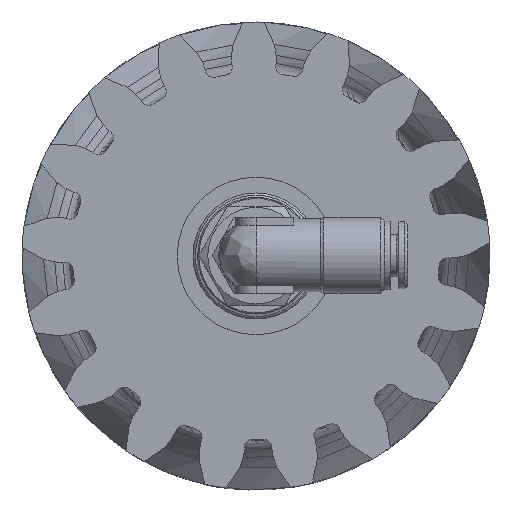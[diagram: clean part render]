
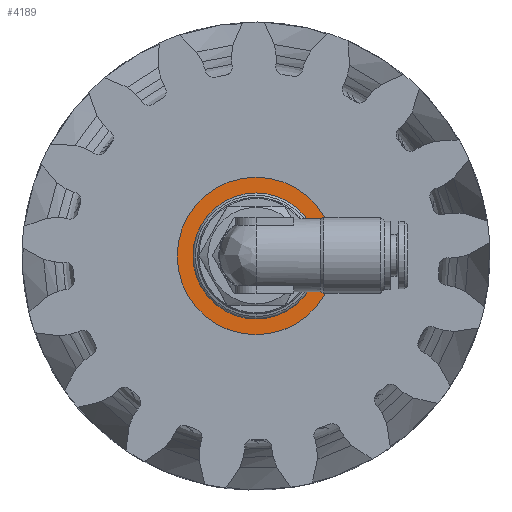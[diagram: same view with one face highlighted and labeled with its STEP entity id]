
A CAD part, top view. The second image highlights one B-rep face of the part: STEP entity #4189.
In plain terms, the highlighted planar face has unit normal (0, 0, 1) as drawn and (0, 1, 0) by its records, which use the part's own axes.
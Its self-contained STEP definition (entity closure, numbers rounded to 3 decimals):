
#4189 = ADVANCED_FACE ( 'NONE', ( #6057, #6412 ), #38403, .F. ) ;
#6057 = FACE_BOUND ( 'NONE', #55292, .T. ) ;
#6412 = FACE_OUTER_BOUND ( 'NONE', #50069, .T. ) ;
#6747 = CARTESIAN_POINT ( 'NONE',  ( 13.5, 0.6, 0. ) ) ;
#7678 = VERTEX_POINT ( 'NONE', #60846 ) ;
#9303 = AXIS2_PLACEMENT_3D ( 'NONE', #6747, #59586, #21718 ) ;
#17143 = AXIS2_PLACEMENT_3D ( 'NONE', #23823, #44364, #55131 ) ;
#19436 = ORIENTED_EDGE ( 'NONE', *, *, #37697, .T. ) ;
#21718 = DIRECTION ( 'NONE',  ( 0., 0., -1. ) ) ;
#23823 = CARTESIAN_POINT ( 'NONE',  ( 0., 0.6, 0. ) ) ;
#26864 = ORIENTED_EDGE ( 'NONE', *, *, #55557, .F. ) ;
#32942 = CARTESIAN_POINT ( 'NONE',  ( 0., 0.6, 0. ) ) ;
#37156 = CIRCLE ( 'NONE', #17143, 10.8 ) ;
#37697 = EDGE_CURVE ( 'NONE', #66393, #66393, #41713, .T. ) ;
#38403 = PLANE ( 'NONE',  #9303 ) ;
#41713 = CIRCLE ( 'NONE', #43905, 13.5 ) ;
#43905 = AXIS2_PLACEMENT_3D ( 'NONE', #32942, #47514, #47859 ) ;
#44364 = DIRECTION ( 'NONE',  ( 0., 1., 0. ) ) ;
#47514 = DIRECTION ( 'NONE',  ( 0., 1., 0. ) ) ;
#47859 = DIRECTION ( 'NONE',  ( 0., 0., 1. ) ) ;
#49764 = CARTESIAN_POINT ( 'NONE',  ( 0., 0.6, 13.5 ) ) ;
#50069 = EDGE_LOOP ( 'NONE', ( #19436 ) ) ;
#55131 = DIRECTION ( 'NONE',  ( 0., 0., 1. ) ) ;
#55292 = EDGE_LOOP ( 'NONE', ( #26864 ) ) ;
#55557 = EDGE_CURVE ( 'NONE', #7678, #7678, #37156, .T. ) ;
#59586 = DIRECTION ( 'NONE',  ( 0., -1., 0. ) ) ;
#60846 = CARTESIAN_POINT ( 'NONE',  ( 0., 0.6, 10.8 ) ) ;
#66393 = VERTEX_POINT ( 'NONE', #49764 ) ;
